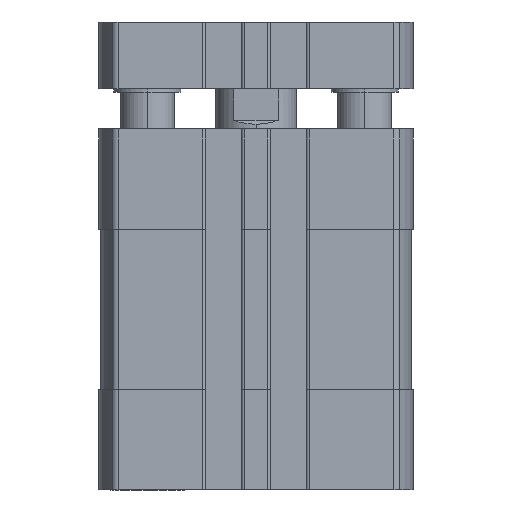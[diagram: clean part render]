
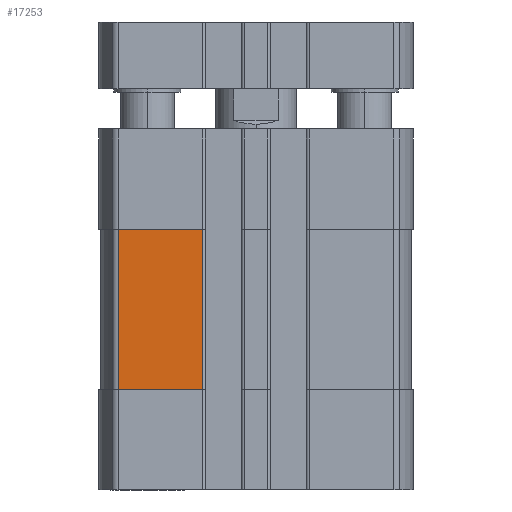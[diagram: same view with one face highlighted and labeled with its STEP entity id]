
A CAD part, front view. The second image highlights one B-rep face of the part: STEP entity #17253.
In plain terms, the highlighted planar face has unit normal (0, -1, 0) as drawn and (-1, 0, 0) by its records, which use the part's own axes.
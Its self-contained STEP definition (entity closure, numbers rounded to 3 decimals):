
#26 = DIRECTION ( 'NONE',  ( 0., -1., 0. ) ) ;
#654 = CARTESIAN_POINT ( 'NONE',  ( -23.25, 7.95, -39. ) ) ;
#729 = DIRECTION ( 'NONE',  ( 0., 0., -1. ) ) ;
#780 = ORIENTED_EDGE ( 'NONE', *, *, #13273, .T. ) ;
#953 = DIRECTION ( 'NONE',  ( -1., 0., 0. ) ) ;
#1305 = CARTESIAN_POINT ( 'NONE',  ( -23.25, 20.543, -39. ) ) ;
#1803 = CARTESIAN_POINT ( 'NONE',  ( -23.25, 20.543, -39. ) ) ;
#1865 = LINE ( 'NONE', #13350, #21443 ) ;
#2410 = VECTOR ( 'NONE', #729, 1000. ) ;
#2755 = VECTOR ( 'NONE', #26, 1000. ) ;
#5099 = CARTESIAN_POINT ( 'NONE',  ( -23.25, 20.543, -15. ) ) ;
#5527 = CARTESIAN_POINT ( 'NONE',  ( -23.25, 7.95, -15. ) ) ;
#5744 = CARTESIAN_POINT ( 'NONE',  ( -23.25, 20.543, -39. ) ) ;
#6950 = EDGE_CURVE ( 'NONE', #11918, #18037, #20532, .T. ) ;
#7130 = LINE ( 'NONE', #654, #2410 ) ;
#7536 = DIRECTION ( 'NONE',  ( 0., 0., -1. ) ) ;
#8123 = FACE_OUTER_BOUND ( 'NONE', #9028, .T. ) ;
#9028 = EDGE_LOOP ( 'NONE', ( #22129, #22022, #780, #13050 ) ) ;
#11492 = EDGE_CURVE ( 'NONE', #18037, #12746, #16581, .T. ) ;
#11651 = CARTESIAN_POINT ( 'NONE',  ( -23.25, 20.543, -39. ) ) ;
#11918 = VERTEX_POINT ( 'NONE', #5099 ) ;
#12746 = VERTEX_POINT ( 'NONE', #18294 ) ;
#13050 = ORIENTED_EDGE ( 'NONE', *, *, #6950, .T. ) ;
#13247 = EDGE_CURVE ( 'NONE', #14023, #12746, #7130, .T. ) ;
#13273 = EDGE_CURVE ( 'NONE', #14023, #11918, #1865, .T. ) ;
#13350 = CARTESIAN_POINT ( 'NONE',  ( -23.25, 0., -15. ) ) ;
#13517 = DIRECTION ( 'NONE',  ( 0., 0., 1. ) ) ;
#14023 = VERTEX_POINT ( 'NONE', #5527 ) ;
#14435 = AXIS2_PLACEMENT_3D ( 'NONE', #11651, #953, #13517 ) ;
#15208 = DIRECTION ( 'NONE',  ( 0., 1., 0. ) ) ;
#15294 = PLANE ( 'NONE',  #14435 ) ;
#15344 = VECTOR ( 'NONE', #7536, 1000. ) ;
#16581 = LINE ( 'NONE', #1803, #2755 ) ;
#17253 = ADVANCED_FACE ( 'NONE', ( #8123 ), #15294, .T. ) ;
#18037 = VERTEX_POINT ( 'NONE', #1305 ) ;
#18294 = CARTESIAN_POINT ( 'NONE',  ( -23.25, 7.95, -39. ) ) ;
#20532 = LINE ( 'NONE', #5744, #15344 ) ;
#21443 = VECTOR ( 'NONE', #15208, 1000. ) ;
#22022 = ORIENTED_EDGE ( 'NONE', *, *, #13247, .F. ) ;
#22129 = ORIENTED_EDGE ( 'NONE', *, *, #11492, .T. ) ;
